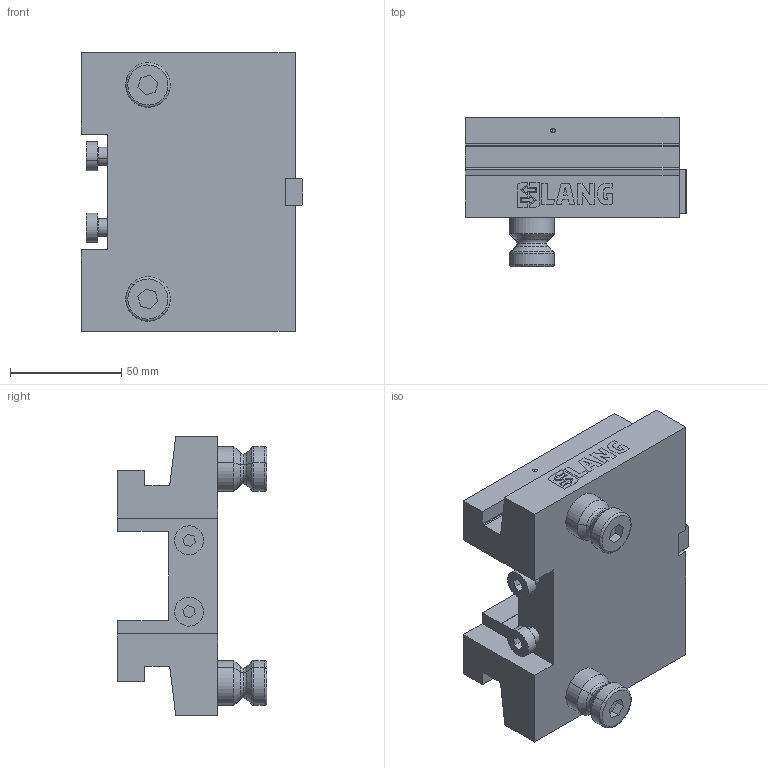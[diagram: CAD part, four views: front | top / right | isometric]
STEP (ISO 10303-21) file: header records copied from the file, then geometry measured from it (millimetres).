
FILE_DESCRIPTION (( 'STEP AP214' ), '1' );
FILE_NAME ('81011.STEP', '2020-10-28T06:39:59', ( '' ), ( '' ), 'SwSTEP 2.0', 'SolidWorks 2019', '' );
FILE_SCHEMA (( 'AUTOMOTIVE_DESIGN' ));
Length unit declared in the file: millimetre
Products named in the file (1): 81011
Bounding box: 99.49 x 67 x 125 mm (x, y, z)
Volume: 358775.4 mm3; surface area: 55298.7 mm2
Topology: 7 solids, 7 shells, 413 faces, 1043 edges, 673 vertices
Faces by surface type: plane 276, cylinder 40, bspline 40, cone 33, torus 20, sphere 4
Entity records: 17247 total; most frequent: CARTESIAN_POINT 2843, ORIENTED_EDGE 2074, DIRECTION 1873, EDGE_CURVE 1037, LINE 791, VECTOR 791, VERTEX_POINT 673, AXIS2_PLACEMENT_3D 541
